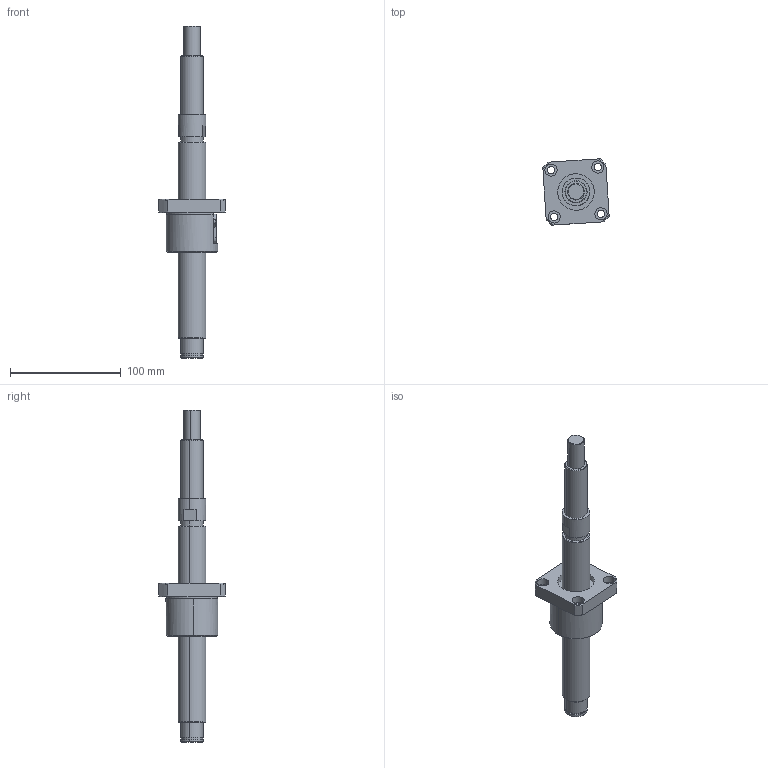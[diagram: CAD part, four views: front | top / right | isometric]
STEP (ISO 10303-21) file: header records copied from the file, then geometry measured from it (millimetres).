
FILE_DESCRIPTION (( 'STEP AP203' ), '1' );
FILE_NAME ('TS2505_assy_20167016.STEP', '2016-07-16T04:55:08', ( 'user' ), ( 'Hewlett-Packard Company' ), 'SwSTEP 2.0', 'SolidWorks 2014', '' );
FILE_SCHEMA (( 'CONFIG_CONTROL_DESIGN' ));
Length unit declared in the file: millimetre
Products named in the file (3): TS2505_nut; TS2505_screw; TS2505_assy_20167016
Assembly tree (2 placements, depth 2):
  TS2505_assy_20167016
    TS2505_nut
    TS2505_screw
Bounding box: 59.94 x 59.94 x 300 mm (x, y, z)
Volume: 192647.5 mm3; surface area: 41681 mm2
Topology: 2 solids, 2 shells, 108 faces, 257 edges, 166 vertices
Faces by surface type: cylinder 52, plane 32, cone 20, sphere 4
Entity records: 3478 total; most frequent: DIRECTION 591, CARTESIAN_POINT 590, ORIENTED_EDGE 506, EDGE_CURVE 253, AXIS2_PLACEMENT_3D 245, VERTEX_POINT 164, EDGE_LOOP 133, CIRCLE 132
